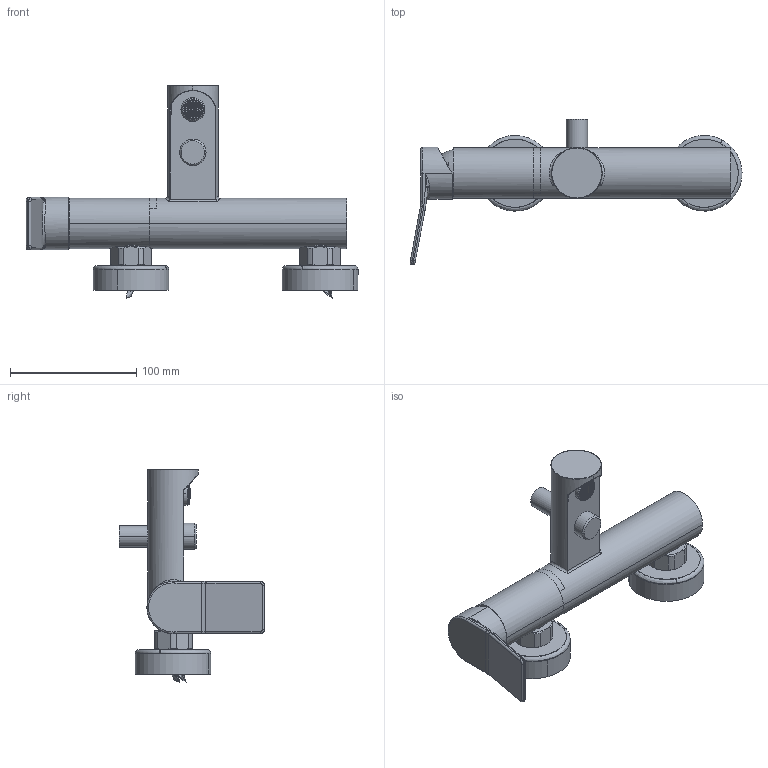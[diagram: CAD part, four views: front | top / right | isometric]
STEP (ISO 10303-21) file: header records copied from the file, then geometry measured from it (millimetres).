
FILE_DESCRIPTION (( 'STEP AP203' ), '1' );
FILE_NAME ('85121610 x architetti.STEP', '2026-05-29T13:55:02', ( '' ), ( '' ), 'SwSTEP 2.0', 'SolidWorks 2020', '' );
FILE_SCHEMA (( 'CONFIG_CONTROL_DESIGN' ));
Products named in the file (1): 85121610 x architetti
Bounding box: 263.4 x 115.09 x 168.87 mm (x, y, z)
Surface area: 119372.9 mm2 (no closed solid volume)
Topology: 0 solids, 18 shells, 3275 faces, 9239 edges, 5759 vertices
Faces by surface type: plane 1431, bspline 1086, cylinder 634, cone 114, torus 10
Entity records: 139686 total; most frequent: CARTESIAN_POINT 68867, ORIENTED_EDGE 17738, DIRECTION 10906, EDGE_CURVE 8874, VERTEX_POINT 5738, AXIS2_PLACEMENT_3D 3934, B_SPLINE_CURVE_WITH_KNOTS 3407, EDGE_LOOP 3405
